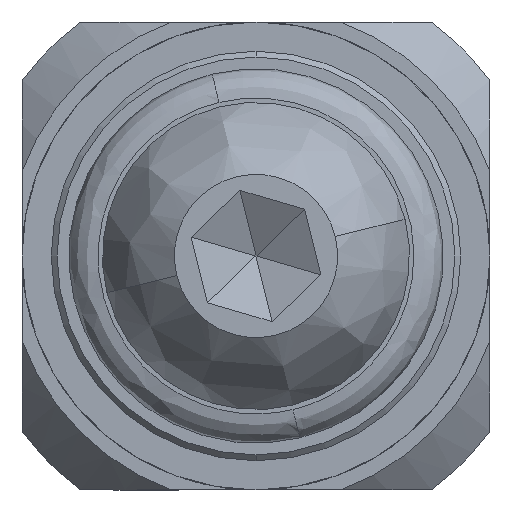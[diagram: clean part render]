
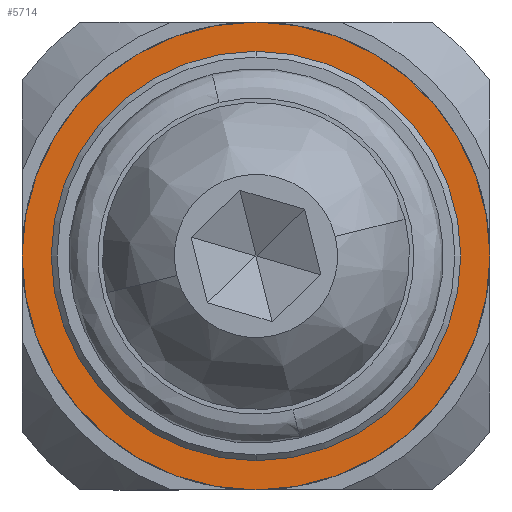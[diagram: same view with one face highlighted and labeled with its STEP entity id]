
A CAD part, front view. The second image highlights one B-rep face of the part: STEP entity #5714.
In plain terms, the highlighted planar face has unit normal (0, -1, 0).
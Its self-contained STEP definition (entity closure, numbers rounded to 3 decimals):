
#251 = AXIS2_PLACEMENT_3D ( 'NONE', #1196, #2592, #1830 ) ;
#335 = CARTESIAN_POINT ( 'NONE',  ( -3.515, 7.535, 32. ) ) ;
#467 = AXIS2_PLACEMENT_3D ( 'NONE', #5724, #5717, #5711 ) ;
#520 = AXIS2_PLACEMENT_3D ( 'NONE', #335, #915, #780 ) ;
#666 = CARTESIAN_POINT ( 'NONE',  ( -3.515, 7.535, 39. ) ) ;
#780 = DIRECTION ( 'NONE',  ( 0., 0., -1. ) ) ;
#886 = AXIS2_PLACEMENT_3D ( 'NONE', #3294, #3291, #3284 ) ;
#915 = DIRECTION ( 'NONE',  ( 0., 1., 0. ) ) ;
#1196 = CARTESIAN_POINT ( 'NONE',  ( -3.515, 7.535, 32. ) ) ;
#1307 = AXIS2_PLACEMENT_3D ( 'NONE', #2752, #2382, #2759 ) ;
#1673 = ORIENTED_EDGE ( 'NONE', *, *, #3492, .T. ) ;
#1685 = EDGE_LOOP ( 'NONE', ( #2750, #3447 ) ) ;
#1830 = DIRECTION ( 'NONE',  ( 1., 0., 0. ) ) ;
#1888 = VERTEX_POINT ( 'NONE', #5052 ) ;
#2272 = VERTEX_POINT ( 'NONE', #5377 ) ;
#2382 = DIRECTION ( 'NONE',  ( 0., 1., 0. ) ) ;
#2535 = FACE_BOUND ( 'NONE', #6350, .T. ) ;
#2592 = DIRECTION ( 'NONE',  ( 0., 1., 0. ) ) ;
#2607 = FACE_OUTER_BOUND ( 'NONE', #1685, .T. ) ;
#2728 = CIRCLE ( 'NONE', #1307, 7. ) ;
#2750 = ORIENTED_EDGE ( 'NONE', *, *, #5689, .F. ) ;
#2752 = CARTESIAN_POINT ( 'NONE',  ( -3.515, 7.535, 32. ) ) ;
#2759 = DIRECTION ( 'NONE',  ( 0., 0., -1. ) ) ;
#2870 = CARTESIAN_POINT ( 'NONE',  ( -3.515, 7.535, 25. ) ) ;
#3284 = DIRECTION ( 'NONE',  ( 1., 0., 0. ) ) ;
#3291 = DIRECTION ( 'NONE',  ( 0., 1., 0. ) ) ;
#3294 = CARTESIAN_POINT ( 'NONE',  ( -3.515, 7.535, 32. ) ) ;
#3310 = CIRCLE ( 'NONE', #520, 7. ) ;
#3447 = ORIENTED_EDGE ( 'NONE', *, *, #4509, .F. ) ;
#3492 = EDGE_CURVE ( 'NONE', #4810, #4602, #2728, .T. ) ;
#3840 = CIRCLE ( 'NONE', #251, 8. ) ;
#4280 = CIRCLE ( 'NONE', #886, 8. ) ;
#4333 = ORIENTED_EDGE ( 'NONE', *, *, #4376, .T. ) ;
#4376 = EDGE_CURVE ( 'NONE', #4602, #4810, #3310, .T. ) ;
#4509 = EDGE_CURVE ( 'NONE', #2272, #1888, #3840, .T. ) ;
#4602 = VERTEX_POINT ( 'NONE', #2870 ) ;
#4810 = VERTEX_POINT ( 'NONE', #666 ) ;
#5052 = CARTESIAN_POINT ( 'NONE',  ( 4.485, 7.535, 32. ) ) ;
#5377 = CARTESIAN_POINT ( 'NONE',  ( -11.515, 7.535, 32. ) ) ;
#5689 = EDGE_CURVE ( 'NONE', #1888, #2272, #4280, .T. ) ;
#5711 = DIRECTION ( 'NONE',  ( 0., 0., 1. ) ) ;
#5714 = ADVANCED_FACE ( 'NONE', ( #2535, #2607 ), #5784, .F. ) ;
#5717 = DIRECTION ( 'NONE',  ( 0., 1., 0. ) ) ;
#5724 = CARTESIAN_POINT ( 'NONE',  ( -11.611, 7.535, 23.904 ) ) ;
#5784 = PLANE ( 'NONE',  #467 ) ;
#6350 = EDGE_LOOP ( 'NONE', ( #4333, #1673 ) ) ;
